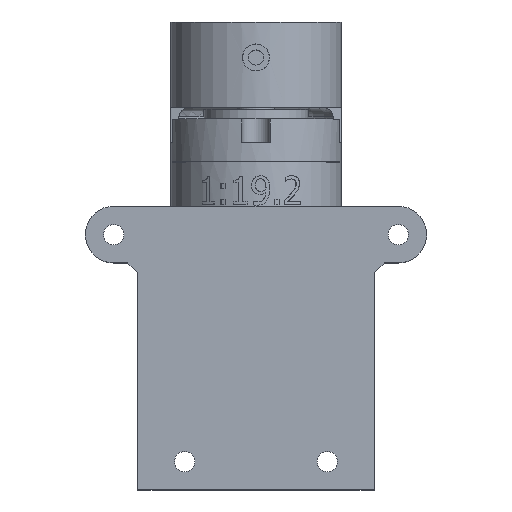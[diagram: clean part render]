
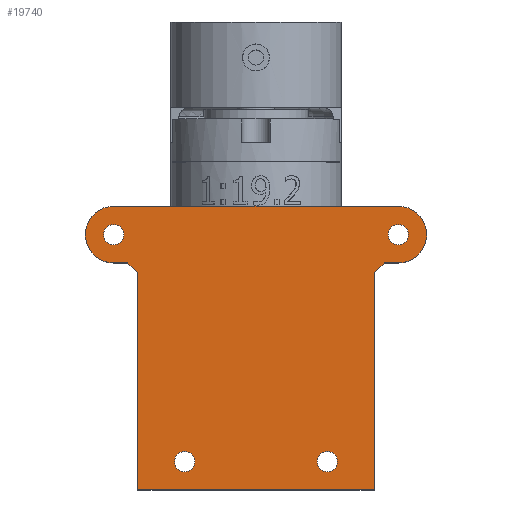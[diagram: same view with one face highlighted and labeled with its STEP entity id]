
A CAD part, top view. The second image highlights one B-rep face of the part: STEP entity #19740.
In plain terms, the highlighted planar face has unit normal (0, 0, 1) as drawn and (0, 1, 0) by its records, which use the part's own axes.
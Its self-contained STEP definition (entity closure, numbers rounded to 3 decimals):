
#2219=LINE('',#32325,#4483);
#2232=LINE('',#32374,#4496);
#2241=LINE('',#32392,#4505);
#2243=LINE('',#32398,#4507);
#2251=LINE('',#32414,#4515);
#2254=LINE('',#32436,#4518);
#2259=LINE('',#32459,#4523);
#2260=LINE('',#32460,#4524);
#4483=VECTOR('',#25794,10.);
#4496=VECTOR('',#25843,10.);
#4505=VECTOR('',#25858,10.);
#4507=VECTOR('',#25862,10.);
#4515=VECTOR('',#25876,10.);
#4518=VECTOR('',#25905,10.);
#4523=VECTOR('',#25936,10.);
#4524=VECTOR('',#25937,10.);
#4941=FACE_BOUND('',#7092,.T.);
#4942=FACE_BOUND('',#7093,.T.);
#4943=FACE_BOUND('',#7094,.T.);
#4944=FACE_BOUND('',#7095,.T.);
#5931=FACE_OUTER_BOUND('',#7091,.T.);
#7091=EDGE_LOOP('',(#16583,#16584,#16585,#16586,#16587,#16588,#16589,#16590,
#16591,#16592));
#7092=EDGE_LOOP('',(#16593));
#7093=EDGE_LOOP('',(#16594));
#7094=EDGE_LOOP('',(#16595));
#7095=EDGE_LOOP('',(#16596));
#7442=CIRCLE('',#21257,2.15);
#7446=CIRCLE('',#21264,2.15);
#7454=CIRCLE('',#21284,2.15);
#7456=CIRCLE('',#21288,6.);
#7459=CIRCLE('',#21295,2.15);
#7460=CIRCLE('',#21297,6.);
#8945=VERTEX_POINT('',#32322);
#8946=VERTEX_POINT('',#32324);
#8957=VERTEX_POINT('',#32353);
#8961=VERTEX_POINT('',#32366);
#8963=VERTEX_POINT('',#32371);
#8964=VERTEX_POINT('',#32373);
#8970=VERTEX_POINT('',#32390);
#8972=VERTEX_POINT('',#32395);
#8973=VERTEX_POINT('',#32397);
#8978=VERTEX_POINT('',#32412);
#8983=VERTEX_POINT('',#32431);
#8984=VERTEX_POINT('',#32435);
#8988=VERTEX_POINT('',#32452);
#8989=VERTEX_POINT('',#32458);
#11487=EDGE_CURVE('',#8946,#8945,#2219,.T.);
#11502=EDGE_CURVE('',#8957,#8957,#7442,.T.);
#11508=EDGE_CURVE('',#8961,#8961,#7446,.T.);
#11510=EDGE_CURVE('',#8963,#8964,#2232,.T.);
#11520=EDGE_CURVE('',#8963,#8970,#2241,.T.);
#11522=EDGE_CURVE('',#8972,#8973,#2243,.T.);
#11531=EDGE_CURVE('',#8972,#8978,#2251,.T.);
#11541=EDGE_CURVE('',#8983,#8983,#7454,.T.);
#11542=EDGE_CURVE('',#8964,#8984,#2254,.T.);
#11546=EDGE_CURVE('',#8984,#8945,#7456,.T.);
#11551=EDGE_CURVE('',#8988,#8988,#7459,.T.);
#11552=EDGE_CURVE('',#8978,#8946,#7460,.T.);
#11553=EDGE_CURVE('',#8970,#8989,#2259,.T.);
#11554=EDGE_CURVE('',#8973,#8989,#2260,.T.);
#16583=ORIENTED_EDGE('',*,*,#11520,.T.);
#16584=ORIENTED_EDGE('',*,*,#11553,.T.);
#16585=ORIENTED_EDGE('',*,*,#11554,.F.);
#16586=ORIENTED_EDGE('',*,*,#11522,.F.);
#16587=ORIENTED_EDGE('',*,*,#11531,.T.);
#16588=ORIENTED_EDGE('',*,*,#11552,.T.);
#16589=ORIENTED_EDGE('',*,*,#11487,.T.);
#16590=ORIENTED_EDGE('',*,*,#11546,.F.);
#16591=ORIENTED_EDGE('',*,*,#11542,.F.);
#16592=ORIENTED_EDGE('',*,*,#11510,.F.);
#16593=ORIENTED_EDGE('',*,*,#11502,.T.);
#16594=ORIENTED_EDGE('',*,*,#11508,.T.);
#16595=ORIENTED_EDGE('',*,*,#11541,.T.);
#16596=ORIENTED_EDGE('',*,*,#11551,.T.);
#17892=PLANE('',#21298);
#19740=ADVANCED_FACE('',(#5931,#4941,#4942,#4943,#4944),#17892,.T.);
#21257=AXIS2_PLACEMENT_3D('',#32355,#25822,#25823);
#21264=AXIS2_PLACEMENT_3D('',#32368,#25838,#25839);
#21284=AXIS2_PLACEMENT_3D('',#32433,#25901,#25902);
#21288=AXIS2_PLACEMENT_3D('',#32442,#25912,#25913);
#21295=AXIS2_PLACEMENT_3D('',#32454,#25928,#25929);
#21297=AXIS2_PLACEMENT_3D('',#32456,#25932,#25933);
#21298=AXIS2_PLACEMENT_3D('',#32457,#25934,#25935);
#25794=DIRECTION('',(1.,0.,0.));
#25822=DIRECTION('center_axis',(0.,-1.,0.));
#25823=DIRECTION('ref_axis',(1.,0.,0.));
#25838=DIRECTION('center_axis',(0.,-1.,0.));
#25839=DIRECTION('ref_axis',(1.,0.,0.));
#25843=DIRECTION('',(0.707,0.,0.707));
#25858=DIRECTION('',(0.,0.,-1.));
#25862=DIRECTION('',(0.707,0.,-0.707));
#25876=DIRECTION('',(-1.,0.,0.));
#25901=DIRECTION('center_axis',(0.,-1.,0.));
#25902=DIRECTION('ref_axis',(-1.,0.,0.));
#25905=DIRECTION('',(1.,0.,0.));
#25912=DIRECTION('center_axis',(0.,-1.,0.));
#25913=DIRECTION('ref_axis',(-1.,0.,0.));
#25928=DIRECTION('center_axis',(0.,-1.,0.));
#25929=DIRECTION('ref_axis',(1.,0.,0.));
#25932=DIRECTION('center_axis',(0.,1.,0.));
#25933=DIRECTION('ref_axis',(1.,0.,0.));
#25934=DIRECTION('center_axis',(0.,1.,0.));
#25935=DIRECTION('ref_axis',(-1.,0.,0.));
#25936=DIRECTION('',(-1.,0.,0.));
#25937=DIRECTION('',(0.,0.,-1.));
#32322=CARTESIAN_POINT('',(30.1,31.,10.));
#32324=CARTESIAN_POINT('',(-30.1,31.,10.));
#32325=CARTESIAN_POINT('',(21.1,31.,10.));
#32353=CARTESIAN_POINT('',(12.95,31.,-44.));
#32355=CARTESIAN_POINT('Origin',(15.1,31.,-44.));
#32366=CARTESIAN_POINT('',(-17.25,31.,-44.));
#32368=CARTESIAN_POINT('Origin',(-15.1,31.,-44.));
#32371=CARTESIAN_POINT('',(25.1,31.,-4.));
#32373=CARTESIAN_POINT('',(27.1,31.,-2.));
#32374=CARTESIAN_POINT('',(25.6,31.,-3.5));
#32390=CARTESIAN_POINT('',(25.1,31.,-50.));
#32392=CARTESIAN_POINT('',(25.1,31.,10.));
#32395=CARTESIAN_POINT('',(-27.1,31.,-2.));
#32397=CARTESIAN_POINT('',(-25.1,31.,-4.));
#32398=CARTESIAN_POINT('',(-15.05,31.,-14.05));
#32412=CARTESIAN_POINT('',(-30.1,31.,-2.));
#32414=CARTESIAN_POINT('',(-25.1,31.,-2.));
#32431=CARTESIAN_POINT('',(32.25,31.,4.));
#32433=CARTESIAN_POINT('Origin',(30.1,31.,4.));
#32435=CARTESIAN_POINT('',(30.1,31.,-2.));
#32436=CARTESIAN_POINT('',(25.1,31.,-2.));
#32442=CARTESIAN_POINT('Origin',(30.1,31.,4.));
#32452=CARTESIAN_POINT('',(-32.25,31.,4.));
#32454=CARTESIAN_POINT('Origin',(-30.1,31.,4.));
#32456=CARTESIAN_POINT('Origin',(-30.1,31.,4.));
#32457=CARTESIAN_POINT('Origin',(21.1,31.,0.));
#32458=CARTESIAN_POINT('',(-25.1,31.,-50.));
#32459=CARTESIAN_POINT('',(-21.1,31.,-50.));
#32460=CARTESIAN_POINT('',(-25.1,31.,10.));
